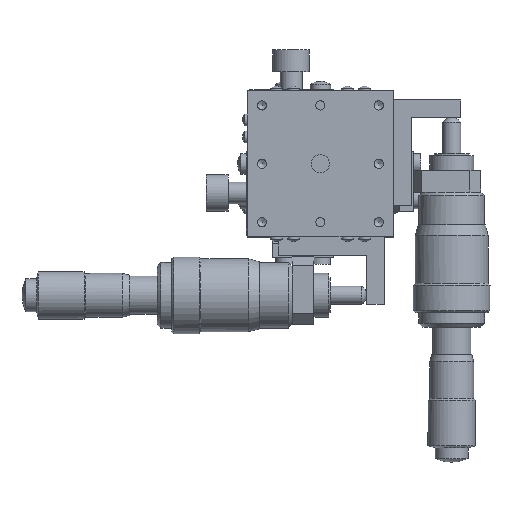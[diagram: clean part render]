
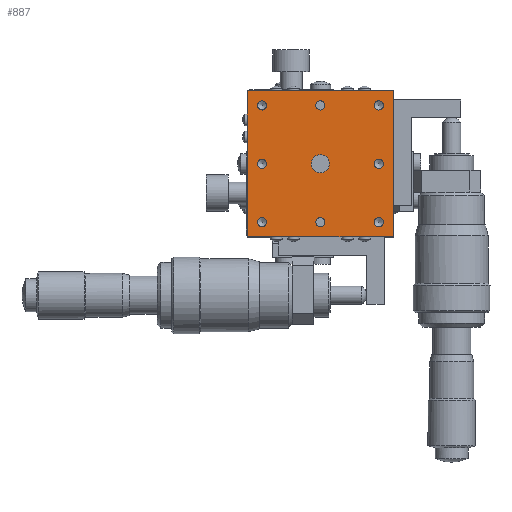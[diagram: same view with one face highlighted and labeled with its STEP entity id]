
A CAD part, top view. The second image highlights one B-rep face of the part: STEP entity #887.
In plain terms, the highlighted planar face has unit normal (0, 0, 1).
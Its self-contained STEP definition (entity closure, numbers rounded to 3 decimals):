
#887 = ADVANCED_FACE( '', ( #2024, #2025, #2026, #2027, #2028, #2029, #2030, #2031, #2032, #2033 ), #2034, .T. );
#2024 = FACE_BOUND( '', #3397, .T. );
#2025 = FACE_BOUND( '', #3398, .T. );
#2026 = FACE_BOUND( '', #3399, .T. );
#2027 = FACE_BOUND( '', #3400, .T. );
#2028 = FACE_BOUND( '', #3401, .T. );
#2029 = FACE_BOUND( '', #3402, .T. );
#2030 = FACE_BOUND( '', #3403, .T. );
#2031 = FACE_BOUND( '', #3404, .T. );
#2032 = FACE_OUTER_BOUND( '', #3405, .T. );
#2033 = FACE_BOUND( '', #3406, .T. );
#2034 = PLANE( '', #3407 );
#3397 = EDGE_LOOP( '', ( #5674 ) );
#3398 = EDGE_LOOP( '', ( #5675 ) );
#3399 = EDGE_LOOP( '', ( #5676 ) );
#3400 = EDGE_LOOP( '', ( #5677 ) );
#3401 = EDGE_LOOP( '', ( #5678 ) );
#3402 = EDGE_LOOP( '', ( #5679 ) );
#3403 = EDGE_LOOP( '', ( #5680 ) );
#3404 = EDGE_LOOP( '', ( #5681 ) );
#3405 = EDGE_LOOP( '', ( #5682, #5683, #5684, #5685 ) );
#3406 = EDGE_LOOP( '', ( #5686 ) );
#3407 = AXIS2_PLACEMENT_3D( '', #5687, #5688, #5689 );
#5674 = ORIENTED_EDGE( '', *, *, #7087, .T. );
#5675 = ORIENTED_EDGE( '', *, *, #7558, .T. );
#5676 = ORIENTED_EDGE( '', *, *, #7559, .T. );
#5677 = ORIENTED_EDGE( '', *, *, #7560, .T. );
#5678 = ORIENTED_EDGE( '', *, *, #7521, .T. );
#5679 = ORIENTED_EDGE( '', *, *, #7561, .T. );
#5680 = ORIENTED_EDGE( '', *, *, #7562, .T. );
#5681 = ORIENTED_EDGE( '', *, *, #7094, .T. );
#5682 = ORIENTED_EDGE( '', *, *, #7563, .F. );
#5683 = ORIENTED_EDGE( '', *, *, #7267, .F. );
#5684 = ORIENTED_EDGE( '', *, *, #7343, .F. );
#5685 = ORIENTED_EDGE( '', *, *, #7425, .F. );
#5686 = ORIENTED_EDGE( '', *, *, #7564, .T. );
#5687 = CARTESIAN_POINT( '', ( 0., 0., 40. ) );
#5688 = DIRECTION( '', ( 0., 0., 1. ) );
#5689 = DIRECTION( '', ( 1., 0., 0. ) );
#7087 = EDGE_CURVE( '', #8373, #8373, #8374, .T. );
#7094 = EDGE_CURVE( '', #8384, #8384, #8385, .T. );
#7267 = EDGE_CURVE( '', #8655, #8658, #8659, .T. );
#7343 = EDGE_CURVE( '', #8764, #8655, #8766, .T. );
#7425 = EDGE_CURVE( '', #8884, #8764, #8887, .T. );
#7521 = EDGE_CURVE( '', #9019, #9019, #9020, .T. );
#7558 = EDGE_CURVE( '', #9072, #9072, #9073, .T. );
#7559 = EDGE_CURVE( '', #9074, #9074, #9075, .T. );
#7560 = EDGE_CURVE( '', #9076, #9076, #9077, .T. );
#7561 = EDGE_CURVE( '', #9078, #9078, #9079, .T. );
#7562 = EDGE_CURVE( '', #9080, #9080, #9081, .T. );
#7563 = EDGE_CURVE( '', #8658, #8884, #9082, .T. );
#7564 = EDGE_CURVE( '', #9083, #9083, #9084, .T. );
#8373 = VERTEX_POINT( '', #10094 );
#8374 = CIRCLE( '', #10095, 1.25 );
#8384 = VERTEX_POINT( '', #10108 );
#8385 = CIRCLE( '', #10109, 1.25 );
#8655 = VERTEX_POINT( '', #10455 );
#8658 = VERTEX_POINT( '', #10459 );
#8659 = LINE( '', #10460, #10461 );
#8764 = VERTEX_POINT( '', #10608 );
#8766 = LINE( '', #10611, #10612 );
#8884 = VERTEX_POINT( '', #10752 );
#8887 = LINE( '', #10756, #10757 );
#9019 = VERTEX_POINT( '', #10932 );
#9020 = CIRCLE( '', #10933, 1.25 );
#9072 = VERTEX_POINT( '', #11002 );
#9073 = CIRCLE( '', #11003, 1.25 );
#9074 = VERTEX_POINT( '', #11004 );
#9075 = CIRCLE( '', #11005, 1.25 );
#9076 = VERTEX_POINT( '', #11006 );
#9077 = CIRCLE( '', #11007, 1.25 );
#9078 = VERTEX_POINT( '', #11008 );
#9079 = CIRCLE( '', #11009, 1.25 );
#9080 = VERTEX_POINT( '', #11010 );
#9081 = CIRCLE( '', #11011, 1.25 );
#9082 = LINE( '', #11012, #11013 );
#9083 = VERTEX_POINT( '', #11014 );
#9084 = CIRCLE( '', #11015, 2.5 );
#10094 = CARTESIAN_POINT( '', ( -16., -1.25, 40. ) );
#10095 = AXIS2_PLACEMENT_3D( '', #11788, #11789, #11790 );
#10108 = CARTESIAN_POINT( '', ( -16., -17.25, 40. ) );
#10109 = AXIS2_PLACEMENT_3D( '', #11797, #11798, #11799 );
#10455 = CARTESIAN_POINT( '', ( 20., 20., 40. ) );
#10459 = CARTESIAN_POINT( '', ( 20., -20., 40. ) );
#10460 = CARTESIAN_POINT( '', ( 20., 0., 40. ) );
#10461 = VECTOR( '', #12018, 1000. );
#10608 = CARTESIAN_POINT( '', ( -20., 20., 40. ) );
#10611 = CARTESIAN_POINT( '', ( 0., 20., 40. ) );
#10612 = VECTOR( '', #12095, 1000. );
#10752 = CARTESIAN_POINT( '', ( -20., -20., 40. ) );
#10756 = CARTESIAN_POINT( '', ( -20., 0., 40. ) );
#10757 = VECTOR( '', #12203, 1000. );
#10932 = CARTESIAN_POINT( '', ( 16., -1.25, 40. ) );
#10933 = AXIS2_PLACEMENT_3D( '', #12301, #12302, #12303 );
#11002 = CARTESIAN_POINT( '', ( -16., 14.75, 40. ) );
#11003 = AXIS2_PLACEMENT_3D( '', #12342, #12343, #12344 );
#11004 = CARTESIAN_POINT( '', ( 0., 14.75, 40. ) );
#11005 = AXIS2_PLACEMENT_3D( '', #12345, #12346, #12347 );
#11006 = CARTESIAN_POINT( '', ( 16., 14.75, 40. ) );
#11007 = AXIS2_PLACEMENT_3D( '', #12348, #12349, #12350 );
#11008 = CARTESIAN_POINT( '', ( 16., -17.25, 40. ) );
#11009 = AXIS2_PLACEMENT_3D( '', #12351, #12352, #12353 );
#11010 = CARTESIAN_POINT( '', ( 0., -17.25, 40. ) );
#11011 = AXIS2_PLACEMENT_3D( '', #12354, #12355, #12356 );
#11012 = CARTESIAN_POINT( '', ( 0., -20., 40. ) );
#11013 = VECTOR( '', #12357, 1000. );
#11014 = CARTESIAN_POINT( '', ( 2.5, 0., 40. ) );
#11015 = AXIS2_PLACEMENT_3D( '', #12358, #12359, #12360 );
#11788 = CARTESIAN_POINT( '', ( -16., 0., 40. ) );
#11789 = DIRECTION( '', ( 0., 0., -1. ) );
#11790 = DIRECTION( '', ( 0., -1., 0. ) );
#11797 = CARTESIAN_POINT( '', ( -16., -16., 40. ) );
#11798 = DIRECTION( '', ( 0., 0., -1. ) );
#11799 = DIRECTION( '', ( 0., -1., 0. ) );
#12018 = DIRECTION( '', ( 0., -1., 0. ) );
#12095 = DIRECTION( '', ( 1., 0., 0. ) );
#12203 = DIRECTION( '', ( 0., 1., 0. ) );
#12301 = CARTESIAN_POINT( '', ( 16., 0., 40. ) );
#12302 = DIRECTION( '', ( 0., 0., -1. ) );
#12303 = DIRECTION( '', ( 0., -1., 0. ) );
#12342 = CARTESIAN_POINT( '', ( -16., 16., 40. ) );
#12343 = DIRECTION( '', ( 0., 0., -1. ) );
#12344 = DIRECTION( '', ( 0., -1., 0. ) );
#12345 = CARTESIAN_POINT( '', ( 0., 16., 40. ) );
#12346 = DIRECTION( '', ( 0., 0., -1. ) );
#12347 = DIRECTION( '', ( 0., -1., 0. ) );
#12348 = CARTESIAN_POINT( '', ( 16., 16., 40. ) );
#12349 = DIRECTION( '', ( 0., 0., -1. ) );
#12350 = DIRECTION( '', ( 0., -1., 0. ) );
#12351 = CARTESIAN_POINT( '', ( 16., -16., 40. ) );
#12352 = DIRECTION( '', ( 0., 0., -1. ) );
#12353 = DIRECTION( '', ( 0., -1., 0. ) );
#12354 = CARTESIAN_POINT( '', ( 0., -16., 40. ) );
#12355 = DIRECTION( '', ( 0., 0., -1. ) );
#12356 = DIRECTION( '', ( 0., -1., 0. ) );
#12357 = DIRECTION( '', ( -1., 0., 0. ) );
#12358 = CARTESIAN_POINT( '', ( 0., 0., 40. ) );
#12359 = DIRECTION( '', ( 0., 0., -1. ) );
#12360 = DIRECTION( '', ( 1., 0., 0. ) );
